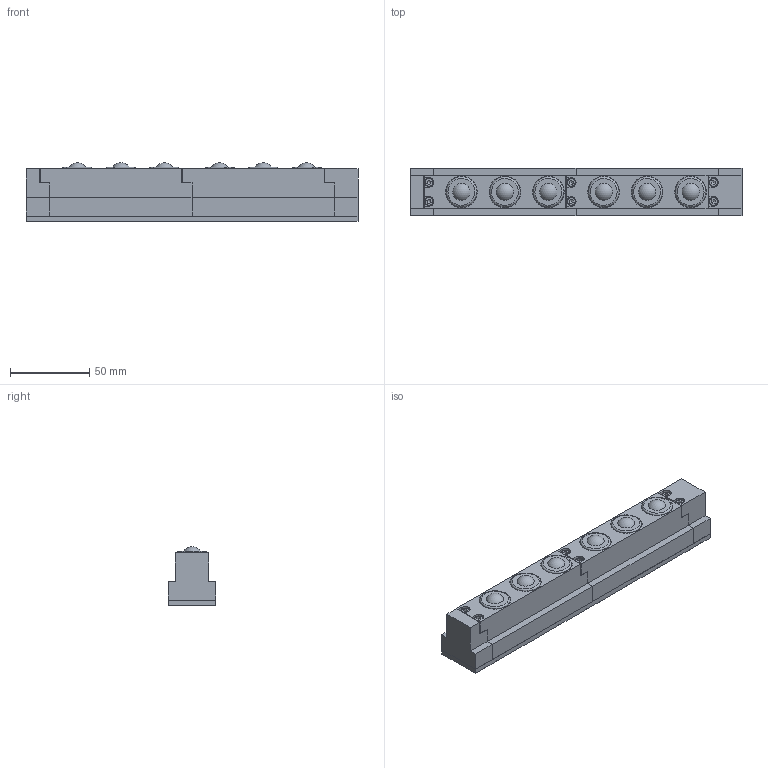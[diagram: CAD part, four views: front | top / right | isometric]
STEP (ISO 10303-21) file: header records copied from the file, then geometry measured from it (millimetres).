
FILE_DESCRIPTION(/* description */ (''),/* implementation_level */ '2;1');
FILE_NAME(/* name */ 'Z:\34-Tei\01-web 3Dデータ\44-ISR-22T\X2\578B\X0\\ISR-22T-210.stp',/* time_stamp */ '2015-01-16T11:15:36+09:00',/* author */ ('yamaki'),/* organization */ (''),/* preprocessor_version */ 'ST-DEVELOPER v15.6',/* originating_system */ 'Autodesk Inventor 2015',/* authorisation */ '');
FILE_SCHEMA (('AUTOMOTIVE_DESIGN { 1 0 10303 214 3 1 1 }'));
Length unit declared in the file: millimetre
Products named in the file (9): 4A03SL; JIS B 1176 - M3 x 10; A213AA; 4A03PS; JIS B 1111 - Csunk M4 x 8 - H; 4A03BA-02; 4A03TB; 4A03CB; 4A03AA
Bounding box: 210 x 30 x 36.96 mm (x, y, z)
Volume: 148077.7 mm3; surface area: 87964.2 mm2
Topology: 43 solids, 43 shells, 1117 faces, 2721 edges, 1732 vertices
Faces by surface type: plane 416, cone 318, cylinder 231, torus 146, sphere 6
Full cylindrical faces by diameter (mm): 2 x5, 2.459 x6, 2.5 x4, 3 x6, 3.242 x20, 3.5 x6, 3.571 x20, 4 x20, 4.5 x20, 5.5 x6, 6 x6, 6.1 x6, 6.2 x3, 8.4 x20, 8.566 x1, 13 x6, 16.5 x6, 19 x6, 19.9 x6, 20 x18, 23.8 x12, 24 x6
Entity records: 7272 total; most frequent: CARTESIAN_POINT 1356, DIRECTION 1256, ORIENTED_EDGE 948, AXIS2_PLACEMENT_3D 520, EDGE_CURVE 474, EDGE_LOOP 436, VERTEX_POINT 360, FACE_OUTER_BOUND 252
